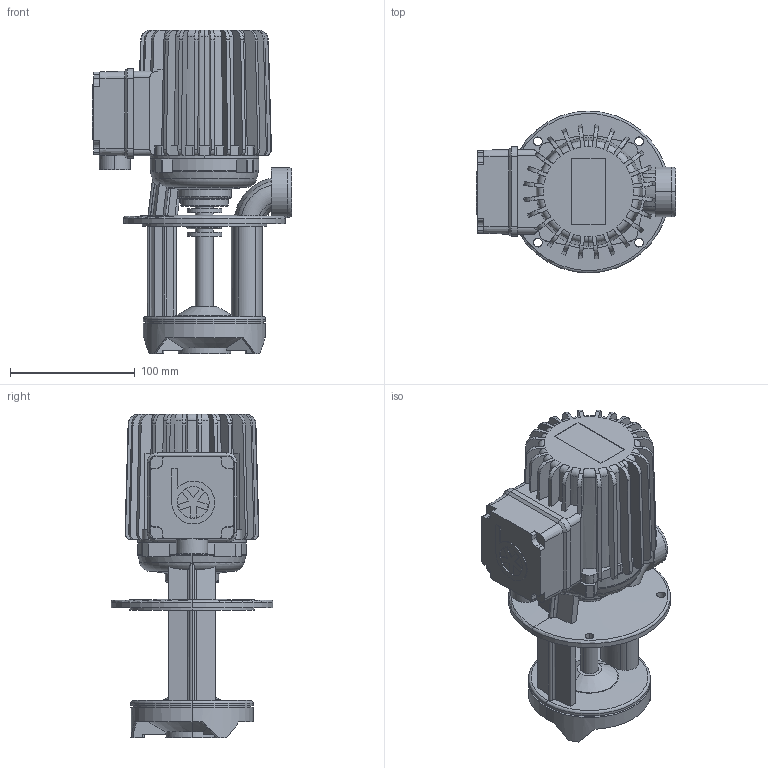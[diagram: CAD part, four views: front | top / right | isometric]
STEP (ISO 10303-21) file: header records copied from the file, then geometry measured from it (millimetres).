
FILE_DESCRIPTION(('no description'),'unknown implementation level');
FILE_NAME('TB63_90_1.stp',' ',('K. H. Brinkmann GmbH & Co. KG'),('CADClick - KiM GmbH - www.kimweb.de'),'unknown preprocess','ACIS','unknown authorization');
FILE_SCHEMA(('automotive_design'));
Length unit declared in the file: millimetre
Products named in the file (3): 1; 2; 3
Bounding box: 160 x 130 x 260 mm (x, y, z)
Volume: 1436687.3 mm3; surface area: 214639.3 mm2
Topology: 3 solids, 3 shells, 558 faces, 1551 edges, 1016 vertices
Faces by surface type: plane 251, cylinder 177, torus 67, cone 63
Entity records: 38590 total; most frequent: CARTESIAN_POINT 6926, STYLED_ITEM 3128, PRESENTATION_STYLE_ASSIGNMENT 3128, COLOUR_RGB 3128, ORIENTED_EDGE 3102, DIRECTION 2996, EDGE_CURVE 1551, CURVE_STYLE 1551
